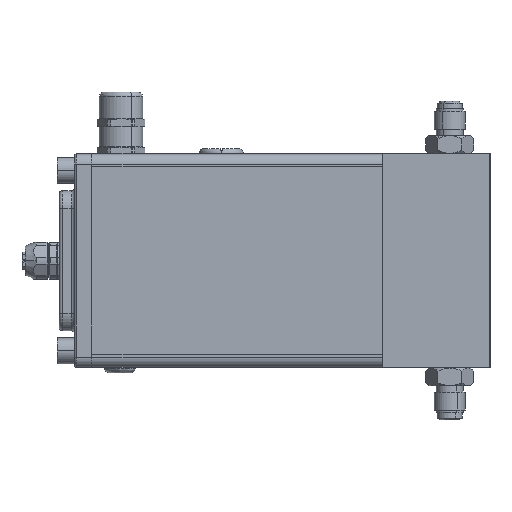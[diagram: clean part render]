
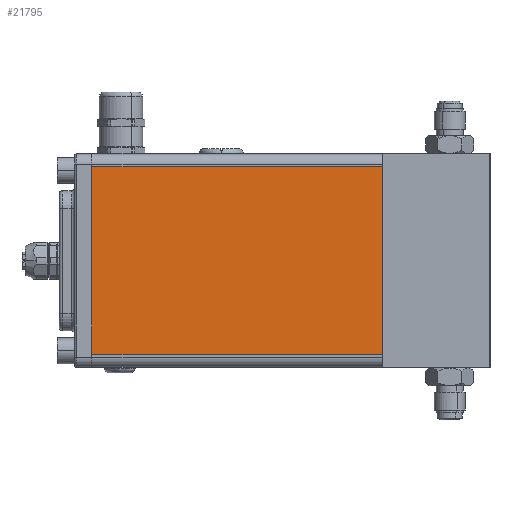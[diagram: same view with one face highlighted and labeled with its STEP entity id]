
A CAD part, left-side view. The second image highlights one B-rep face of the part: STEP entity #21795.
In plain terms, the highlighted planar face has unit normal (-1, 0, 0).
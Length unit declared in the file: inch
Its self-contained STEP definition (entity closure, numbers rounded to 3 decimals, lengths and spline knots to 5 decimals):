
#587 = DIRECTION ( 'NONE',  ( 0., 0., -1. ) ) ;
#1163 = EDGE_CURVE ( 'NONE', #1825, #5818, #13076, .T. ) ;
#1427 = VECTOR ( 'NONE', #2996, 39.37008 ) ;
#1825 = VERTEX_POINT ( 'NONE', #2887 ) ;
#1923 = CARTESIAN_POINT ( 'NONE',  ( -0.95368, 7.19882, -1.69758 ) ) ;
#1971 = VECTOR ( 'NONE', #3828, 39.37008 ) ;
#2563 = ORIENTED_EDGE ( 'NONE', *, *, #1163, .F. ) ;
#2887 = CARTESIAN_POINT ( 'NONE',  ( -0.95368, 7.19882, 1.69542 ) ) ;
#2944 = EDGE_CURVE ( 'NONE', #7782, #3578, #15739, .T. ) ;
#2996 = DIRECTION ( 'NONE',  ( 0., -1., 0. ) ) ;
#3578 = VERTEX_POINT ( 'NONE', #10766 ) ;
#3607 = VECTOR ( 'NONE', #18188, 39.37008 ) ;
#3828 = DIRECTION ( 'NONE',  ( 0., -1., 0. ) ) ;
#4287 = CARTESIAN_POINT ( 'NONE',  ( -0.95368, 7.19882, -1.69758 ) ) ;
#4406 = DIRECTION ( 'NONE',  ( 1., 0., 0. ) ) ;
#5818 = VERTEX_POINT ( 'NONE', #17456 ) ;
#6708 = AXIS2_PLACEMENT_3D ( 'NONE', #4287, #4406, #587 ) ;
#7435 = CARTESIAN_POINT ( 'NONE',  ( -0.95368, 7.19882, 1.69542 ) ) ;
#7782 = VERTEX_POINT ( 'NONE', #1923 ) ;
#9087 = LINE ( 'NONE', #16645, #3607 ) ;
#10207 = EDGE_LOOP ( 'NONE', ( #14483, #2563, #21656, #14953 ) ) ;
#10766 = CARTESIAN_POINT ( 'NONE',  ( -0.95368, 1.94882, -1.69758 ) ) ;
#11837 = CARTESIAN_POINT ( 'NONE',  ( -0.95368, 7.19882, -1.69758 ) ) ;
#12232 = CARTESIAN_POINT ( 'NONE',  ( -0.95368, 7.19882, -1.69758 ) ) ;
#13076 = LINE ( 'NONE', #7435, #1971 ) ;
#14483 = ORIENTED_EDGE ( 'NONE', *, *, #19237, .T. ) ;
#14953 = ORIENTED_EDGE ( 'NONE', *, *, #2944, .T. ) ;
#15739 = LINE ( 'NONE', #12232, #1427 ) ;
#15829 = VECTOR ( 'NONE', #17243, 39.37008 ) ;
#16645 = CARTESIAN_POINT ( 'NONE',  ( -0.95368, 1.94882, -1.69758 ) ) ;
#17032 = FACE_OUTER_BOUND ( 'NONE', #10207, .T. ) ;
#17132 = LINE ( 'NONE', #11837, #15829 ) ;
#17243 = DIRECTION ( 'NONE',  ( 0., 0., 1. ) ) ;
#17456 = CARTESIAN_POINT ( 'NONE',  ( -0.95368, 1.94882, 1.69542 ) ) ;
#17858 = EDGE_CURVE ( 'NONE', #7782, #1825, #17132, .T. ) ;
#18188 = DIRECTION ( 'NONE',  ( 0., 0., 1. ) ) ;
#19237 = EDGE_CURVE ( 'NONE', #3578, #5818, #9087, .T. ) ;
#21085 = PLANE ( 'NONE',  #6708 ) ;
#21656 = ORIENTED_EDGE ( 'NONE', *, *, #17858, .F. ) ;
#21795 = ADVANCED_FACE ( 'NONE', ( #17032 ), #21085, .F. ) ;
